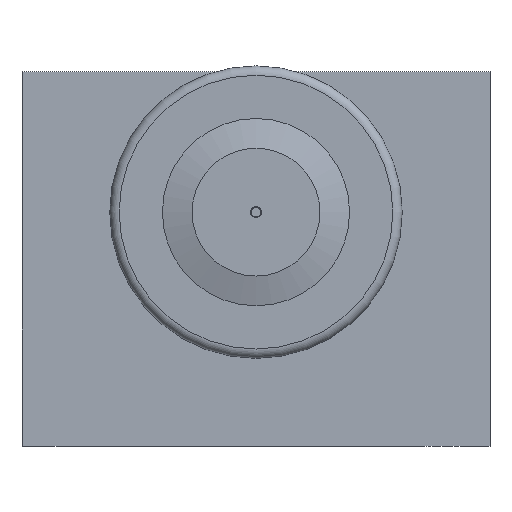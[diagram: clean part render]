
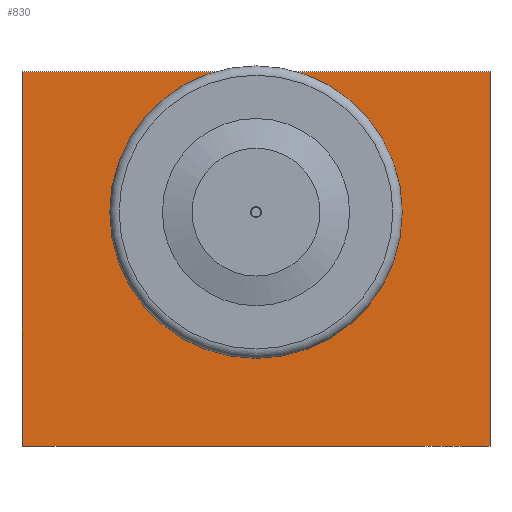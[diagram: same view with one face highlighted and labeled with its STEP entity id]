
A CAD part, front view. The second image highlights one B-rep face of the part: STEP entity #830.
In plain terms, the highlighted planar face has unit normal (0, -1, 0).
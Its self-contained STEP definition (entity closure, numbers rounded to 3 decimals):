
#33=FACE_BOUND('',#150,.T.);
#46=PLANE('',#938);
#90=FACE_OUTER_BOUND('',#149,.T.);
#149=EDGE_LOOP('',(#715,#716,#717,#718));
#150=EDGE_LOOP('',(#719,#720));
#175=LINE('',#1292,#244);
#180=LINE('',#1306,#249);
#198=LINE('',#1372,#267);
#201=LINE('',#1376,#270);
#244=VECTOR('',#1050,10.);
#249=VECTOR('',#1061,10.);
#267=VECTOR('',#1119,10.);
#270=VECTOR('',#1124,10.);
#351=CIRCLE('',#939,17.5);
#352=CIRCLE('',#940,17.5);
#382=VERTEX_POINT('',#1289);
#383=VERTEX_POINT('',#1291);
#389=VERTEX_POINT('',#1305);
#417=VERTEX_POINT('',#1371);
#426=VERTEX_POINT('',#1405);
#427=VERTEX_POINT('',#1406);
#473=EDGE_CURVE('',#383,#382,#175,.T.);
#480=EDGE_CURVE('',#389,#383,#180,.T.);
#513=EDGE_CURVE('',#389,#417,#198,.T.);
#516=EDGE_CURVE('',#417,#382,#201,.T.);
#530=EDGE_CURVE('',#426,#427,#351,.T.);
#531=EDGE_CURVE('',#427,#426,#352,.T.);
#715=ORIENTED_EDGE('',*,*,#473,.T.);
#716=ORIENTED_EDGE('',*,*,#516,.F.);
#717=ORIENTED_EDGE('',*,*,#513,.F.);
#718=ORIENTED_EDGE('',*,*,#480,.T.);
#719=ORIENTED_EDGE('',*,*,#530,.T.);
#720=ORIENTED_EDGE('',*,*,#531,.T.);
#830=ADVANCED_FACE('',(#90,#33),#46,.T.);
#938=AXIS2_PLACEMENT_3D('',#1404,#1150,#1151);
#939=AXIS2_PLACEMENT_3D('',#1407,#1152,#1153);
#940=AXIS2_PLACEMENT_3D('',#1408,#1154,#1155);
#1050=DIRECTION('',(0.,0.,1.));
#1061=DIRECTION('',(1.,0.,0.));
#1119=DIRECTION('',(0.,0.,1.));
#1124=DIRECTION('',(1.,0.,0.));
#1150=DIRECTION('center_axis',(0.,-1.,0.));
#1151=DIRECTION('ref_axis',(0.,0.,-1.));
#1152=DIRECTION('center_axis',(0.,1.,0.));
#1153=DIRECTION('ref_axis',(-1.,0.,0.));
#1154=DIRECTION('center_axis',(0.,1.,0.));
#1155=DIRECTION('ref_axis',(-1.,0.,0.));
#1289=CARTESIAN_POINT('',(100.,0.,80.));
#1291=CARTESIAN_POINT('',(100.,0.,0.));
#1292=CARTESIAN_POINT('',(100.,0.,0.));
#1305=CARTESIAN_POINT('',(0.,0.,0.));
#1306=CARTESIAN_POINT('',(0.,0.,0.));
#1371=CARTESIAN_POINT('',(0.,0.,80.));
#1372=CARTESIAN_POINT('',(0.,0.,0.));
#1376=CARTESIAN_POINT('',(0.,0.,80.));
#1404=CARTESIAN_POINT('Origin',(0.,0.,0.));
#1405=CARTESIAN_POINT('',(32.5,0.,50.));
#1406=CARTESIAN_POINT('',(67.5,0.,50.));
#1407=CARTESIAN_POINT('Origin',(50.,0.,50.));
#1408=CARTESIAN_POINT('Origin',(50.,0.,50.));
